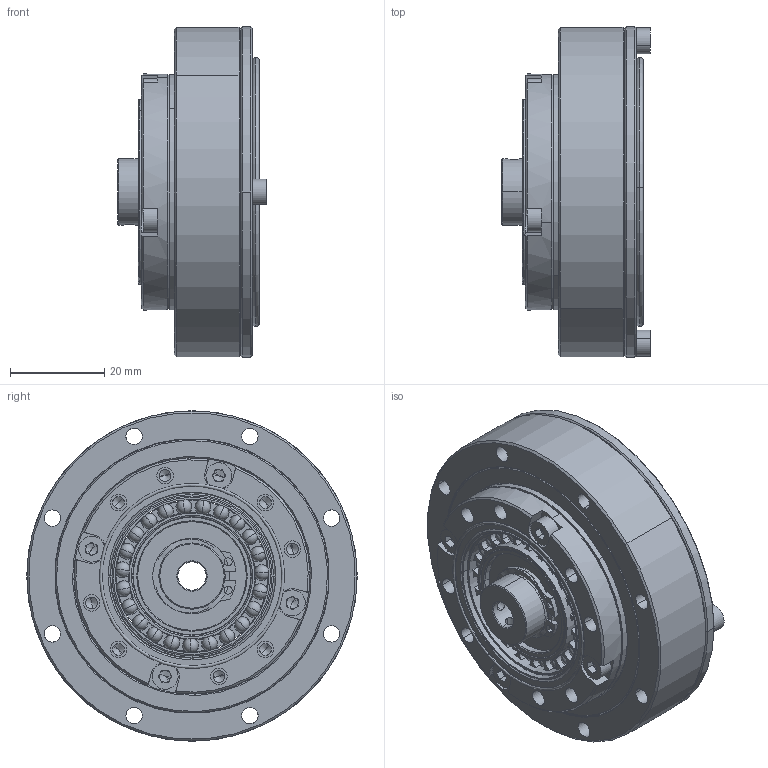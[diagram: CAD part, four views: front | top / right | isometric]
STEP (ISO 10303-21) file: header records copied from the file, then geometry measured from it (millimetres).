
FILE_DESCRIPTION (( 'STEP AP203' ), '1' );
FILE_NAME ('FHG-14-XXX-SO.STEP', '2023-01-29T05:00:37', ( '微软用户' ), ( '微软中国' ), 'SwSTEP 2.0', 'SolidWorks 2016', '' );
FILE_SCHEMA (( 'CONFIG_CONTROL_DESIGN' ));
Length unit declared in the file: millimetre
Products named in the file (1): FHG-14-XXX-SO
Bounding box: 31.5 x 70 x 70 mm (x, y, z)
Volume: 54887.3 mm3; surface area: 50487 mm2
Topology: 47 solids, 47 shells, 764 faces, 1919 edges, 1197 vertices
Faces by surface type: cylinder 307, plane 224, cone 141, sphere 46, torus 40, bspline 6
Entity records: 29441 total; most frequent: CARTESIAN_POINT 11087, DIRECTION 4206, ORIENTED_EDGE 3528, EDGE_CURVE 1764, AXIS2_PLACEMENT_3D 1739, VERTEX_POINT 1128, CIRCLE 980, EDGE_LOOP 898
